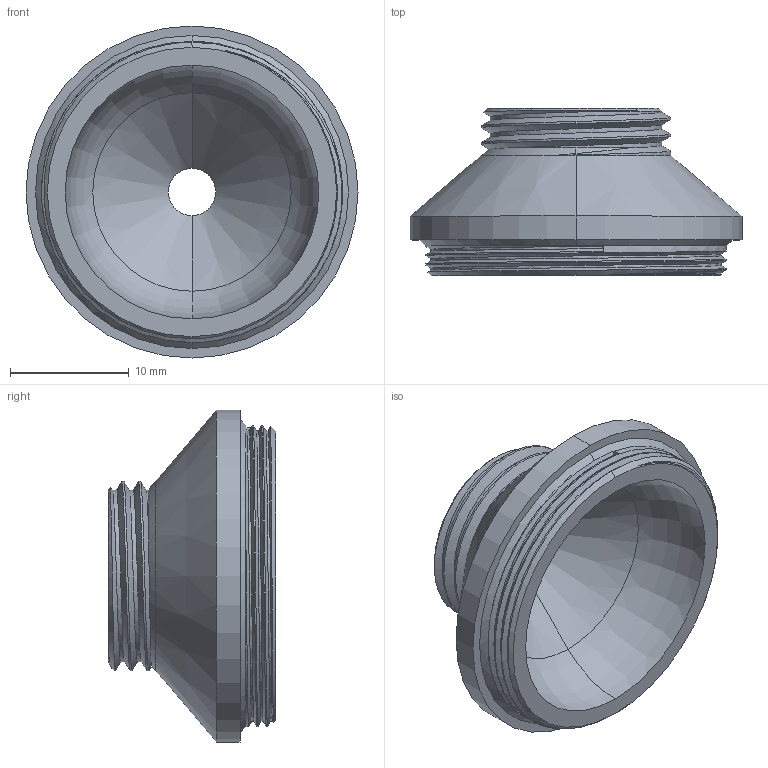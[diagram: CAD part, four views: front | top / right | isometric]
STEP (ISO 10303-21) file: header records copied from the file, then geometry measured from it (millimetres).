
FILE_DESCRIPTION (( 'STEP AP214' ), '1' );
FILE_NAME ('disposable-lens-body-[C-mount]-(apertureD=4mm).STEP', '2024-11-17T04:34:28', ( '' ), ( '' ), '' );
FILE_SCHEMA (( 'AUTOMOTIVE_DESIGN' ));
Length unit declared in the file: millimetre
Products named in the file (1): disposable-lens-body-[C-mount-F-mount]-(apertureD=4mm)
Bounding box: 28 x 14.1 x 28 mm (x, y, z)
Volume: 2906.7 mm3; surface area: 2455.8 mm2
Topology: 1 solids, 1 shells, 49 faces, 124 edges, 79 vertices
Faces by surface type: cylinder 17, cone 12, bspline 12, plane 6, torus 2
Entity records: 5600 total; most frequent: CARTESIAN_POINT 4560, ORIENTED_EDGE 248, DIRECTION 162, EDGE_CURVE 124, VERTEX_POINT 79, AXIS2_PLACEMENT_3D 68, EDGE_LOOP 53, ADVANCED_FACE 49
